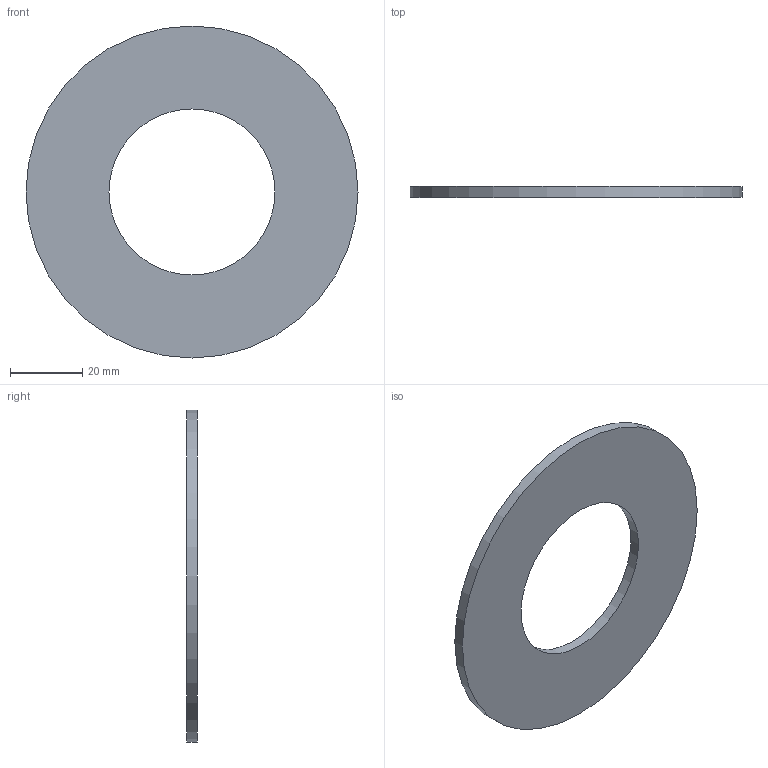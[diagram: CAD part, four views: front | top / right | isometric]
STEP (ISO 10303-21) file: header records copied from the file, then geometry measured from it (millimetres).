
FILE_DESCRIPTION(/* description */ ('Unknown'),/* implementation_level */ '2;1');
FILE_NAME(/* name */ 'GUA.050B',/* time_stamp */ '2021-04-01T11:21:59+02:00',/* author */ ('Unknown'),/* organization */ ('Unknown'),/* preprocessor_version */ 'ST-DEVELOPER v16.7',/* originating_system */ 'Solid Edge',/* authorisation */ 'Unknown');
FILE_SCHEMA (('AUTOMOTIVE_DESIGN {1 0 10303 214 3 1 1}'));
Length unit declared in the file: millimetre
Products named in the file (1): GUA.050B
Bounding box: 92 x 3 x 92 mm (x, y, z)
Volume: 14957.1 mm3; surface area: 11272 mm2
Topology: 1 solids, 1 shells, 4 faces, 6 edges, 4 vertices
Faces by surface type: cylinder 2, plane 2
Full cylindrical faces by diameter (mm): 46 x1, 92 x1
Entity records: 118 total; most frequent: DIRECTION 18, CARTESIAN_POINT 13, AXIS2_PLACEMENT_3D 9, ORIENTED_EDGE 8, EDGE_LOOP 8, FACE_BOUND 8, EDGE_CURVE 4, VERTEX_POINT 4
